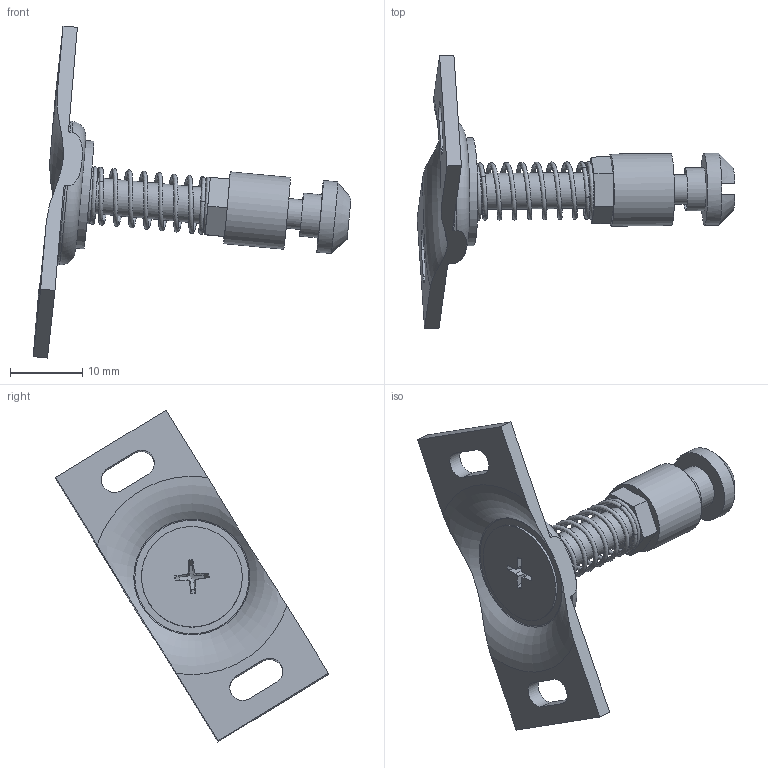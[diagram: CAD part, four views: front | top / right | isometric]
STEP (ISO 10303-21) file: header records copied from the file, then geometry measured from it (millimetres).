
FILE_DESCRIPTION(/* description */ (''),/* implementation_level */ '2;1');
FILE_NAME(/* name */ 'C:\Users\1\Desktop\3д упр\R2SM420.stp',/* time_stamp */ '2021-07-15T14:41:18+03:00',/* author */ ('arch'),/* organization */ (''),/* preprocessor_version */ 'ST-DEVELOPER v18',/* originating_system */ 'Autodesk Inventor 2020',/* authorisation */ '');
FILE_SCHEMA (('AUTOMOTIVE_DESIGN { 1 0 10303 214 3 1 1 }'));
Length unit declared in the file: millimetre
Products named in the file (1): R2SM420
Bounding box: 44.07 x 37.88 x 46.05 mm (x, y, z)
Volume: 3162.9 mm3; surface area: 3731.6 mm2
Topology: 1 solids, 3 shells, 99 faces, 264 edges, 176 vertices
Faces by surface type: plane 45, cylinder 17, cone 17, bspline 11, torus 9
Full cylindrical faces by diameter (mm): 4.134 x1, 5 x2, 5.3 x1, 6 x1, 9.2 x1, 10 x3, 14 x1, 15 x1
Entity records: 5308 total; most frequent: CARTESIAN_POINT 2664, ORIENTED_EDGE 524, DIRECTION 502, EDGE_CURVE 262, AXIS2_PLACEMENT_3D 200, VERTEX_POINT 176, EDGE_LOOP 114, CIRCLE 111
